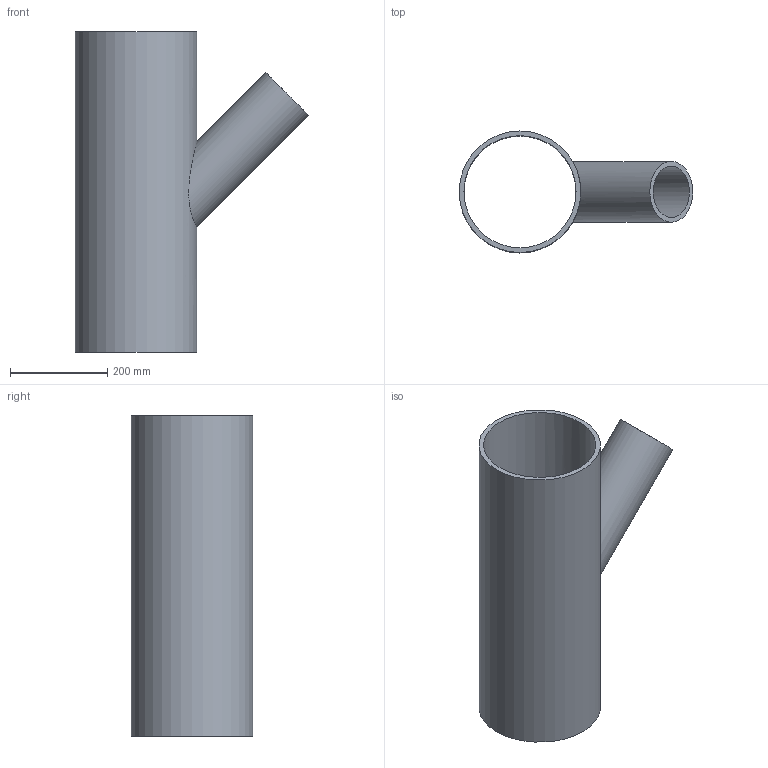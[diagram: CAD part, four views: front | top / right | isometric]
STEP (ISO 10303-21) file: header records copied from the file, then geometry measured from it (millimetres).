
FILE_DESCRIPTION(/* description */ (''),/* implementation_level */ '2;1');
FILE_NAME(/* name */ 'C:\Planerdaten\Export PLA\PRO_101557\stp\371139.stp',/* time_stamp */ '2021-09-30T15:09:16+02:00',/* author */ ('JANAN'),/* organization */ (''),/* preprocessor_version */ 'ST-DEVELOPER v16.13',/* originating_system */ 'Autodesk Inventor 2018',/* authorisation */ '');
FILE_SCHEMA (('AUTOMOTIVE_DESIGN { 1 0 10303 214 3 1 1 }'));
Length unit declared in the file: millimetre
Products named in the file (1): tmp4BA4.tmp
Bounding box: 480.32 x 250 x 660 mm (x, y, z)
Volume: 5669976.6 mm3; surface area: 1186727.9 mm2
Topology: 1 solids, 1 shells, 7 faces, 17 edges, 12 vertices
Faces by surface type: cylinder 4, plane 3
Full cylindrical faces by diameter (mm): 105.6 x1, 125 x1, 230.6 x1, 250 x1
Entity records: 328 total; most frequent: CARTESIAN_POINT 150, DIRECTION 28, EDGE_LOOP 16, ORIENTED_EDGE 16, AXIS2_PLACEMENT_3D 14, FACE_BOUND 9, VERTEX_POINT 8, EDGE_CURVE 8
